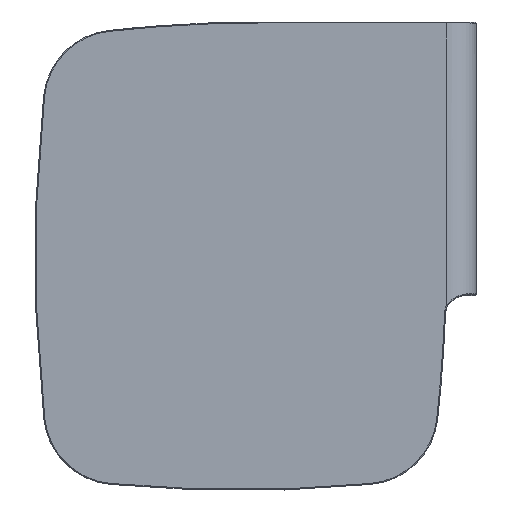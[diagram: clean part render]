
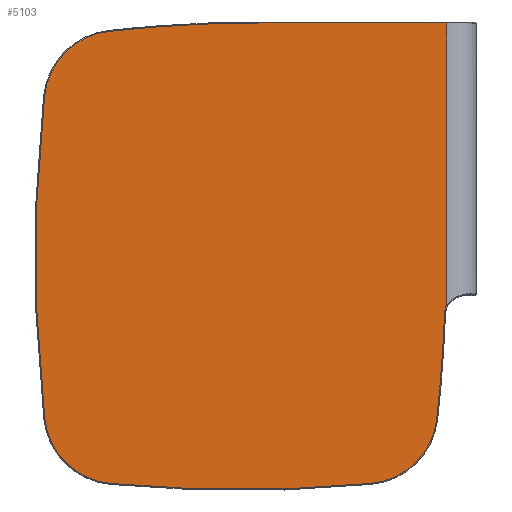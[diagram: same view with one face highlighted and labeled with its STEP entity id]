
A CAD part, top view. The second image highlights one B-rep face of the part: STEP entity #5103.
In plain terms, the highlighted planar face has unit normal (0, 0, 1).
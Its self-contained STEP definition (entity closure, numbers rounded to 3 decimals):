
#3174=CARTESIAN_POINT('',(-279.843,-290.56,15.0));
#3175=VERTEX_POINT('',#3174);
#3176=CARTESIAN_POINT('',(-281.189,-297.186,15.0));
#3177=VERTEX_POINT('',#3176);
#3178=CARTESIAN_POINT('',(-260.205,-298.,15.0));
#3179=DIRECTION('',(0.0,0.0,1.0));
#3180=DIRECTION('',(0.0,1.0,0.0));
#3181=AXIS2_PLACEMENT_3D('',#3178,#3179,#3180);
#3182=CIRCLE('',#3181,21.);
#3183=EDGE_CURVE('',#3175,#3177,#3182,.T.);
#3209=CARTESIAN_POINT('',(-289.27,-405.061,15.0));
#3210=VERTEX_POINT('',#3209);
#3219=CARTESIAN_POINT('',(-1782.062,-238.996,15.0));
#3220=DIRECTION('',(0.0,0.0,-1.0));
#3221=DIRECTION('',(0.994,-0.111,0.0));
#3222=AXIS2_PLACEMENT_3D('',#3219,#3220,#3221);
#3223=CIRCLE('',#3222,1502.);
#3224=EDGE_CURVE('',#3177,#3210,#3223,.T.);
#3234=CARTESIAN_POINT('',(-355.658,-470.532,15.0));
#3235=VERTEX_POINT('',#3234);
#3244=CARTESIAN_POINT('',(-362.817,-396.879,15.0));
#3245=DIRECTION('',(0.0,0.0,-1.0));
#3246=DIRECTION('',(0.097,-0.995,0.0));
#3247=AXIS2_PLACEMENT_3D('',#3244,#3245,#3246);
#3248=CIRCLE('',#3247,74.);
#3249=EDGE_CURVE('',#3210,#3235,#3248,.T.);
#3259=CARTESIAN_POINT('',(-622.466,-470.532,15.0));
#3260=VERTEX_POINT('',#3259);
#3269=CARTESIAN_POINT('',(-489.062,902.,15.0));
#3270=DIRECTION('',(0.0,0.0,-1.0));
#3271=DIRECTION('',(-0.097,-0.995,0.0));
#3272=AXIS2_PLACEMENT_3D('',#3269,#3270,#3271);
#3273=CIRCLE('',#3272,1379.);
#3274=EDGE_CURVE('',#3235,#3260,#3273,.T.);
#3284=CARTESIAN_POINT('',(-688.854,-405.061,15.0));
#3285=VERTEX_POINT('',#3284);
#3294=CARTESIAN_POINT('',(-615.308,-396.879,15.0));
#3295=DIRECTION('',(0.0,0.0,-1.0));
#3296=DIRECTION('',(-0.994,-0.111,0.0));
#3297=AXIS2_PLACEMENT_3D('',#3294,#3295,#3296);
#3298=CIRCLE('',#3297,74.);
#3299=EDGE_CURVE('',#3260,#3285,#3298,.T.);
#3309=CARTESIAN_POINT('',(-689.09,-75.071,15.0));
#3310=VERTEX_POINT('',#3309);
#3319=CARTESIAN_POINT('',(803.938,-239.,15.0));
#3320=DIRECTION('',(0.0,0.0,-1.0));
#3321=DIRECTION('',(-0.994,0.109,0.0));
#3322=AXIS2_PLACEMENT_3D('',#3319,#3320,#3321);
#3323=CIRCLE('',#3322,1502.);
#3324=EDGE_CURVE('',#3285,#3310,#3323,.T.);
#3334=CARTESIAN_POINT('',(-623.787,-9.609,15.0));
#3335=VERTEX_POINT('',#3334);
#3344=CARTESIAN_POINT('',(-615.532,-83.147,15.0));
#3345=DIRECTION('',(0.0,0.0,-1.0));
#3346=DIRECTION('',(-0.112,0.994,0.0));
#3347=AXIS2_PLACEMENT_3D('',#3344,#3345,#3346);
#3348=CIRCLE('',#3347,74.);
#3349=EDGE_CURVE('',#3310,#3335,#3348,.T.);
#3359=CARTESIAN_POINT('',(-469.938,-1.,15.0));
#3360=VERTEX_POINT('',#3359);
#3369=CARTESIAN_POINT('',(-469.938,-1380.,15.0));
#3370=DIRECTION('',(0.0,0.0,-1.0));
#3371=DIRECTION('',(0.0,1.0,0.0));
#3372=AXIS2_PLACEMENT_3D('',#3369,#3370,#3371);
#3373=CIRCLE('',#3372,1379.);
#3374=EDGE_CURVE('',#3335,#3360,#3373,.T.);
#3384=CARTESIAN_POINT('',(-278.929,-1.,15.0));
#3385=VERTEX_POINT('',#3384);
#3401=CARTESIAN_POINT('',(-469.938,-1.,15.0));
#3402=DIRECTION('',(1.0,0.0,0.0));
#3403=VECTOR('',#3402,191.009);
#3404=LINE('',#3401,#3403);
#3405=EDGE_CURVE('',#3360,#3385,#3404,.T.);
#4037=CARTESIAN_POINT('',(-278.929,-288.99,15.));
#4038=VERTEX_POINT('',#4037);
#4179=CARTESIAN_POINT('',(-278.929,-288.99,15.0));
#4180=CARTESIAN_POINT('',(-278.997,-289.094,15.0));
#4181=CARTESIAN_POINT('',(-279.061,-289.195,15.));
#4182=CARTESIAN_POINT('',(-279.257,-289.51,15.));
#4183=CARTESIAN_POINT('',(-279.377,-289.712,15.));
#4184=CARTESIAN_POINT('',(-279.617,-290.133,15.));
#4185=CARTESIAN_POINT('',(-279.726,-290.337,15.0));
#4186=CARTESIAN_POINT('',(-279.824,-290.524,15.0));
#4187=CARTESIAN_POINT('',(-279.834,-290.542,15.0));
#4188=CARTESIAN_POINT('',(-279.843,-290.56,15.0));
#4189=B_SPLINE_CURVE_WITH_KNOTS('',3,(#4179,#4180,#4181,#4182,#4183,#4184,#4185,#4186,#4187,#4188),.UNSPECIFIED.,.F.,.U.,(4,2,2,2,4),(-0.117,-0.097,-0.055,0.0,0.006),.UNSPECIFIED.);
#4190=EDGE_CURVE('',#4038,#3175,#4189,.T.);
#5080=CARTESIAN_POINT('',(-3.718,-214.238,15.0));
#5081=DIRECTION('',(0.0,0.0,1.0));
#5082=DIRECTION('',(1.0,0.0,0.0));
#5083=AXIS2_PLACEMENT_3D('',#5080,#5081,#5082);
#5084=PLANE('',#5083);
#5085=ORIENTED_EDGE('',*,*,#3405,.F.);
#5086=ORIENTED_EDGE('',*,*,#3374,.F.);
#5087=ORIENTED_EDGE('',*,*,#3349,.F.);
#5088=ORIENTED_EDGE('',*,*,#3324,.F.);
#5089=ORIENTED_EDGE('',*,*,#3299,.F.);
#5090=ORIENTED_EDGE('',*,*,#3274,.F.);
#5091=ORIENTED_EDGE('',*,*,#3249,.F.);
#5092=ORIENTED_EDGE('',*,*,#3224,.F.);
#5093=ORIENTED_EDGE('',*,*,#3183,.F.);
#5094=ORIENTED_EDGE('',*,*,#4190,.F.);
#5095=CARTESIAN_POINT('',(-278.929,-288.99,15.0));
#5096=DIRECTION('',(0.0,1.0,0.0));
#5097=VECTOR('',#5096,287.99);
#5098=LINE('',#5095,#5097);
#5099=EDGE_CURVE('',#4038,#3385,#5098,.T.);
#5100=ORIENTED_EDGE('',*,*,#5099,.T.);
#5101=EDGE_LOOP('',(#5085,#5086,#5087,#5088,#5089,#5090,#5091,#5092,#5093,#5094,#5100));
#5102=FACE_OUTER_BOUND('',#5101,.T.);
#5103=ADVANCED_FACE('',(#5102),#5084,.T.);
